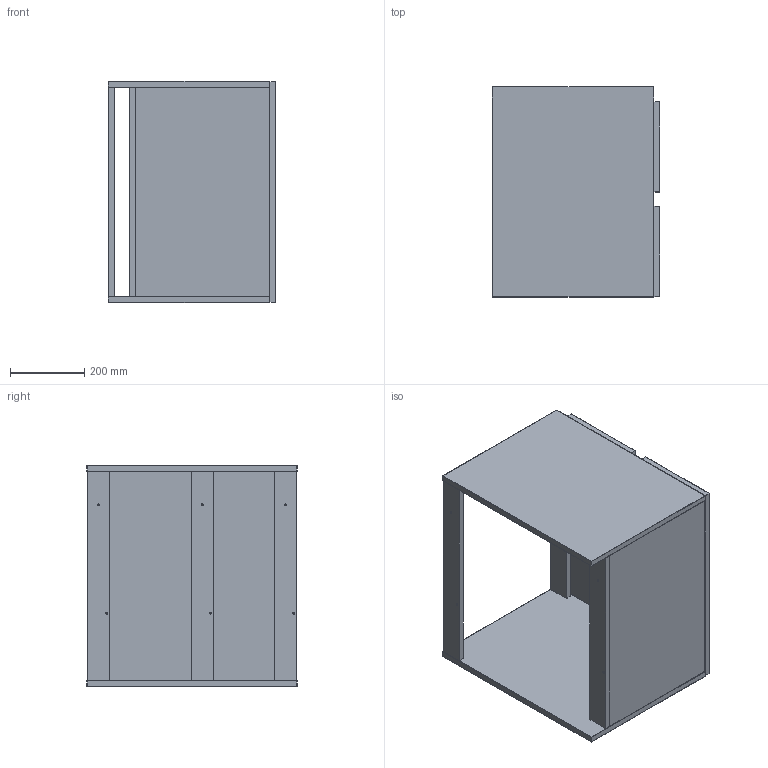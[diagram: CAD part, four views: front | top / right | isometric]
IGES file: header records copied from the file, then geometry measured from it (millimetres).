
Start section: SolidWorks IGES file using analytic representation for surfaces
Global section: file name: D:\DOWNLOADS\BBOX_MUEBLE 60 2C_F.IGS; native system: SolidWorks 2021; preprocessor: SolidWorks 2021; author: LINECA; date: 211129.112223; units: millimetre
Bounding box: 450 x 565 x 595 mm (x, y, z)
Surface area: 2458826.5 mm2 (no closed solid volume)
Topology: 0 solids, 0 shells, 227 faces, 2048 edges, 2008 vertices
Faces by surface type: bspline 187, revolution 40
